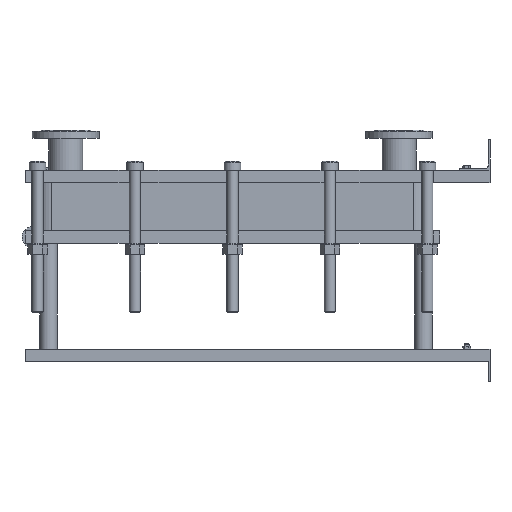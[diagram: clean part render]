
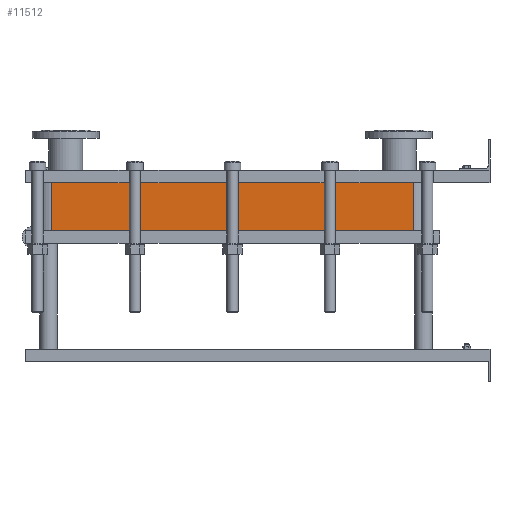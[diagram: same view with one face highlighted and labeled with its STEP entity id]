
A CAD part, left-side view. The second image highlights one B-rep face of the part: STEP entity #11512.
In plain terms, the highlighted planar face has unit normal (-1, 0, 0).
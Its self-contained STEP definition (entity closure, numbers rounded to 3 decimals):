
#1129=LINE('',#23232,#2102);
#1130=LINE('',#23236,#2103);
#1131=LINE('',#23238,#2104);
#1132=LINE('',#23239,#2105);
#2102=VECTOR('',#15887,10.);
#2103=VECTOR('',#15892,10.);
#2104=VECTOR('',#15893,10.);
#2105=VECTOR('',#15894,10.);
#3267=FACE_OUTER_BOUND('',#4093,.T.);
#4093=EDGE_LOOP('',(#10103,#10104,#10105,#10106));
#5642=VERTEX_POINT('',#23229);
#5643=VERTEX_POINT('',#23231);
#5644=VERTEX_POINT('',#23235);
#5645=VERTEX_POINT('',#23237);
#7159=EDGE_CURVE('',#5643,#5642,#1129,.T.);
#7161=EDGE_CURVE('',#5642,#5644,#1130,.T.);
#7162=EDGE_CURVE('',#5645,#5644,#1131,.T.);
#7163=EDGE_CURVE('',#5645,#5643,#1132,.T.);
#10103=ORIENTED_EDGE('',*,*,#7161,.T.);
#10104=ORIENTED_EDGE('',*,*,#7162,.F.);
#10105=ORIENTED_EDGE('',*,*,#7163,.T.);
#10106=ORIENTED_EDGE('',*,*,#7159,.T.);
#10857=PLANE('',#12751);
#11512=ADVANCED_FACE('',(#3267),#10857,.T.);
#12751=AXIS2_PLACEMENT_3D('',#23234,#15890,#15891);
#15887=DIRECTION('',(0.,0.,-1.));
#15890=DIRECTION('center_axis',(-1.,0.,0.));
#15891=DIRECTION('ref_axis',(0.,1.,0.));
#15892=DIRECTION('',(0.,-1.,0.));
#15893=DIRECTION('',(0.,0.,-1.));
#15894=DIRECTION('',(0.,1.,0.));
#23229=CARTESIAN_POINT('',(-200.,1414.,-155.25));
#23231=CARTESIAN_POINT('',(-200.,1414.,0.));
#23232=CARTESIAN_POINT('',(-200.,1414.,0.));
#23234=CARTESIAN_POINT('Origin',(-200.,248.,0.));
#23235=CARTESIAN_POINT('',(-200.,248.,-155.25));
#23236=CARTESIAN_POINT('',(-200.,539.5,-155.25));
#23237=CARTESIAN_POINT('',(-200.,248.,0.));
#23238=CARTESIAN_POINT('',(-200.,248.,0.));
#23239=CARTESIAN_POINT('',(-200.,248.,0.));
